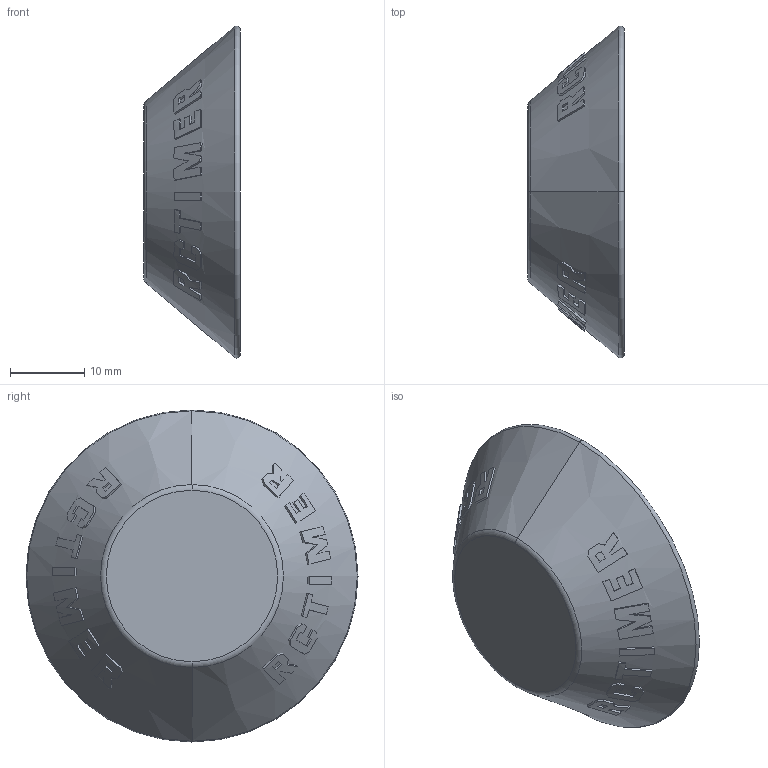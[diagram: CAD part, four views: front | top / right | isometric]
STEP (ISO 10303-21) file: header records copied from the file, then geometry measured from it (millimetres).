
FILE_DESCRIPTION (( 'STEP AP214' ), '1' );
FILE_NAME ('Â·±êK¿ÕÐÄ.STEP', '2025-10-04T06:08:41', ( '' ), ( '' ), 'SwSTEP 2.0', 'SolidWorks 2025', '' );
FILE_SCHEMA (( 'AUTOMOTIVE_DESIGN' ));
Length unit declared in the file: millimetre
Products named in the file (1): 路标K空心
Bounding box: 13 x 44.67 x 44.67 mm (x, y, z)
Volume: 5975.7 mm3; surface area: 4256.5 mm2
Topology: 1 solids, 1 shells, 195 faces, 518 edges, 344 vertices
Faces by surface type: bspline 166, cone 22, torus 4, plane 3
Entity records: 6902 total; most frequent: CARTESIAN_POINT 3495, ORIENTED_EDGE 1036, EDGE_CURVE 518, B_SPLINE_CURVE_WITH_KNOTS 498, VERTEX_POINT 344, EDGE_LOOP 214, ADVANCED_FACE 195, FACE_OUTER_BOUND 195
